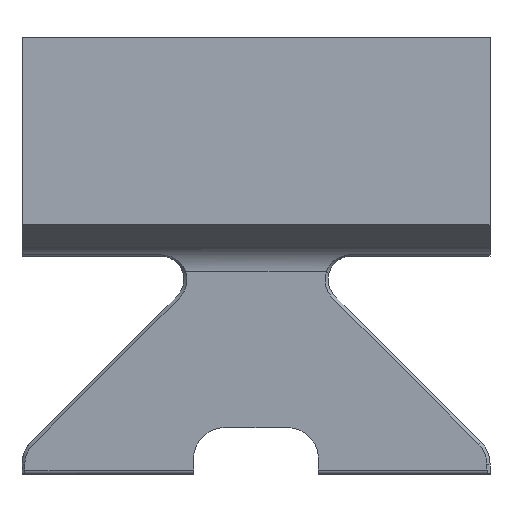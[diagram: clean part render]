
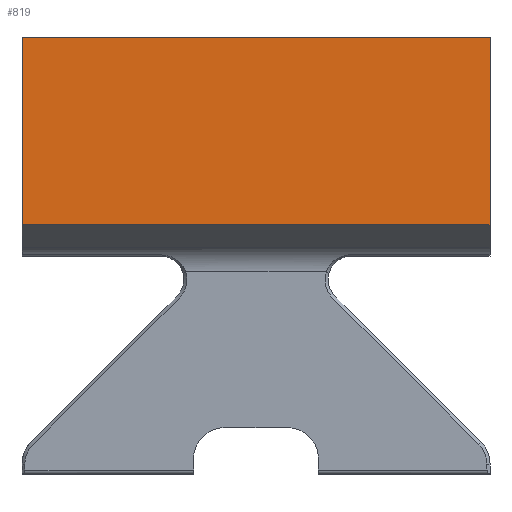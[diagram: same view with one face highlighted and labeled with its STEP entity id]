
A CAD part, top view. The second image highlights one B-rep face of the part: STEP entity #819.
In plain terms, the highlighted planar face has unit normal (0, 0, 1).
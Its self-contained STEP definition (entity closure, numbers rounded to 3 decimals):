
#1 = CARTESIAN_POINT ( 'NONE',  ( -15., 16., 4. ) ) ;
#71 = CARTESIAN_POINT ( 'NONE',  ( -15., 28., 4. ) ) ;
#125 = EDGE_CURVE ( 'NONE', #3126, #795, #978, .T. ) ;
#211 = EDGE_LOOP ( 'NONE', ( #609, #2319, #2394, #2346 ) ) ;
#222 = EDGE_CURVE ( 'NONE', #3126, #1195, #829, .T. ) ;
#300 = PLANE ( 'NONE',  #2479 ) ;
#329 = CARTESIAN_POINT ( 'NONE',  ( 15., 28., 4. ) ) ;
#462 = EDGE_CURVE ( 'NONE', #795, #2846, #792, .T. ) ;
#486 = DIRECTION ( 'NONE',  ( 1., 0., 0. ) ) ;
#609 = ORIENTED_EDGE ( 'NONE', *, *, #1987, .T. ) ;
#703 = VECTOR ( 'NONE', #2519, 1000. ) ;
#792 = LINE ( 'NONE', #1572, #703 ) ;
#795 = VERTEX_POINT ( 'NONE', #2270 ) ;
#819 = ADVANCED_FACE ( 'NONE', ( #2564 ), #300, .F. ) ;
#829 = LINE ( 'NONE', #71, #3002 ) ;
#978 = LINE ( 'NONE', #1963, #2012 ) ;
#1195 = VERTEX_POINT ( 'NONE', #1 ) ;
#1313 = DIRECTION ( 'NONE',  ( 0., 0., -1. ) ) ;
#1356 = CARTESIAN_POINT ( 'NONE',  ( -31.426, 16., 4. ) ) ;
#1572 = CARTESIAN_POINT ( 'NONE',  ( 15., 28., 4. ) ) ;
#1688 = CARTESIAN_POINT ( 'NONE',  ( 15., 16., 4. ) ) ;
#1963 = CARTESIAN_POINT ( 'NONE',  ( 15., 28., 4. ) ) ;
#1987 = EDGE_CURVE ( 'NONE', #1195, #2846, #2374, .T. ) ;
#2012 = VECTOR ( 'NONE', #486, 1000. ) ;
#2270 = CARTESIAN_POINT ( 'NONE',  ( 15., 28., 4. ) ) ;
#2319 = ORIENTED_EDGE ( 'NONE', *, *, #462, .F. ) ;
#2346 = ORIENTED_EDGE ( 'NONE', *, *, #222, .T. ) ;
#2360 = DIRECTION ( 'NONE',  ( 1., 0., 0. ) ) ;
#2374 = LINE ( 'NONE', #1356, #3214 ) ;
#2394 = ORIENTED_EDGE ( 'NONE', *, *, #125, .F. ) ;
#2479 = AXIS2_PLACEMENT_3D ( 'NONE', #329, #1313, #2765 ) ;
#2519 = DIRECTION ( 'NONE',  ( 0., -1., 0. ) ) ;
#2564 = FACE_OUTER_BOUND ( 'NONE', #211, .T. ) ;
#2765 = DIRECTION ( 'NONE',  ( -1., 0., 0. ) ) ;
#2787 = DIRECTION ( 'NONE',  ( 0., -1., 0. ) ) ;
#2846 = VERTEX_POINT ( 'NONE', #1688 ) ;
#3002 = VECTOR ( 'NONE', #2787, 1000. ) ;
#3083 = CARTESIAN_POINT ( 'NONE',  ( -15., 28., 4. ) ) ;
#3126 = VERTEX_POINT ( 'NONE', #3083 ) ;
#3214 = VECTOR ( 'NONE', #2360, 1000. ) ;
